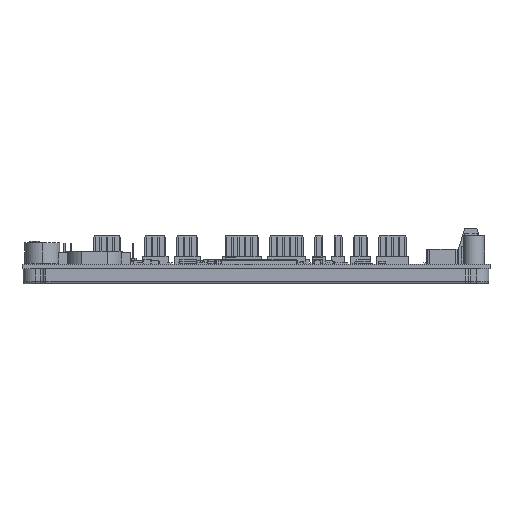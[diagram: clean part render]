
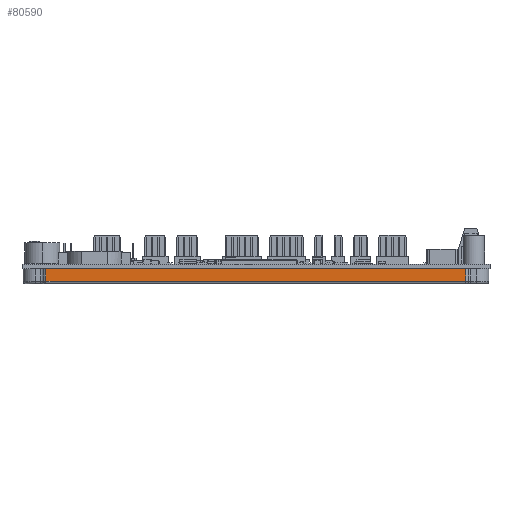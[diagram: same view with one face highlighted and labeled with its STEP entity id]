
A CAD part, front view. The second image highlights one B-rep face of the part: STEP entity #80590.
In plain terms, the highlighted planar face has unit normal (0, -1, 0).
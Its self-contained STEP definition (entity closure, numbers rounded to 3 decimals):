
#4272 = DIRECTION ( 'NONE',  ( 1., 0., 0. ) ) ;
#7014 = EDGE_CURVE ( 'NONE', #131056, #73955, #37643, .T. ) ;
#8240 = VECTOR ( 'NONE', #12323, 1000. ) ;
#12323 = DIRECTION ( 'NONE',  ( 0., 0., -1. ) ) ;
#19265 = ORIENTED_EDGE ( 'NONE', *, *, #48596, .T. ) ;
#24696 = VECTOR ( 'NONE', #4272, 1000. ) ;
#27189 = DIRECTION ( 'NONE',  ( 0., 0., 1. ) ) ;
#32363 = ORIENTED_EDGE ( 'NONE', *, *, #7014, .T. ) ;
#37643 = LINE ( 'NONE', #128934, #109334 ) ;
#39319 = FACE_OUTER_BOUND ( 'NONE', #78351, .T. ) ;
#41600 = CARTESIAN_POINT ( 'NONE',  ( -165., -3.2, 0. ) ) ;
#41703 = VECTOR ( 'NONE', #27189, 1000. ) ;
#48274 = LINE ( 'NONE', #120146, #8240 ) ;
#48596 = EDGE_CURVE ( 'NONE', #76002, #131056, #48274, .T. ) ;
#48739 = CARTESIAN_POINT ( 'NONE',  ( 1.2, -3.2, 0. ) ) ;
#58813 = ORIENTED_EDGE ( 'NONE', *, *, #121043, .T. ) ;
#71362 = CARTESIAN_POINT ( 'NONE',  ( -166., -3.2, 5.1 ) ) ;
#73955 = VERTEX_POINT ( 'NONE', #48739 ) ;
#76002 = VERTEX_POINT ( 'NONE', #94002 ) ;
#77470 = LINE ( 'NONE', #94320, #41703 ) ;
#78351 = EDGE_LOOP ( 'NONE', ( #19265, #32363, #58813, #121207 ) ) ;
#80590 = ADVANCED_FACE ( 'NONE', ( #39319 ), #149121, .T. ) ;
#81842 = DIRECTION ( 'NONE',  ( 0., 0., -1. ) ) ;
#94002 = CARTESIAN_POINT ( 'NONE',  ( -165., -3.2, 5.1 ) ) ;
#94320 = CARTESIAN_POINT ( 'NONE',  ( 1.2, -3.2, -1. ) ) ;
#100540 = DIRECTION ( 'NONE',  ( 1., 0., 0. ) ) ;
#100543 = LINE ( 'NONE', #71362, #24696 ) ;
#109334 = VECTOR ( 'NONE', #100540, 1000. ) ;
#120146 = CARTESIAN_POINT ( 'NONE',  ( -165., -3.2, -1. ) ) ;
#121043 = EDGE_CURVE ( 'NONE', #73955, #152124, #77470, .T. ) ;
#121207 = ORIENTED_EDGE ( 'NONE', *, *, #131684, .F. ) ;
#121469 = CARTESIAN_POINT ( 'NONE',  ( -166., -3.2, -1. ) ) ;
#128847 = AXIS2_PLACEMENT_3D ( 'NONE', #121469, #162643, #81842 ) ;
#128934 = CARTESIAN_POINT ( 'NONE',  ( 1.2, -3.2, 0. ) ) ;
#131056 = VERTEX_POINT ( 'NONE', #41600 ) ;
#131684 = EDGE_CURVE ( 'NONE', #76002, #152124, #100543, .T. ) ;
#149121 = PLANE ( 'NONE',  #128847 ) ;
#152124 = VERTEX_POINT ( 'NONE', #167302 ) ;
#162643 = DIRECTION ( 'NONE',  ( 0., -1., 0. ) ) ;
#167302 = CARTESIAN_POINT ( 'NONE',  ( 1.2, -3.2, 5.1 ) ) ;
